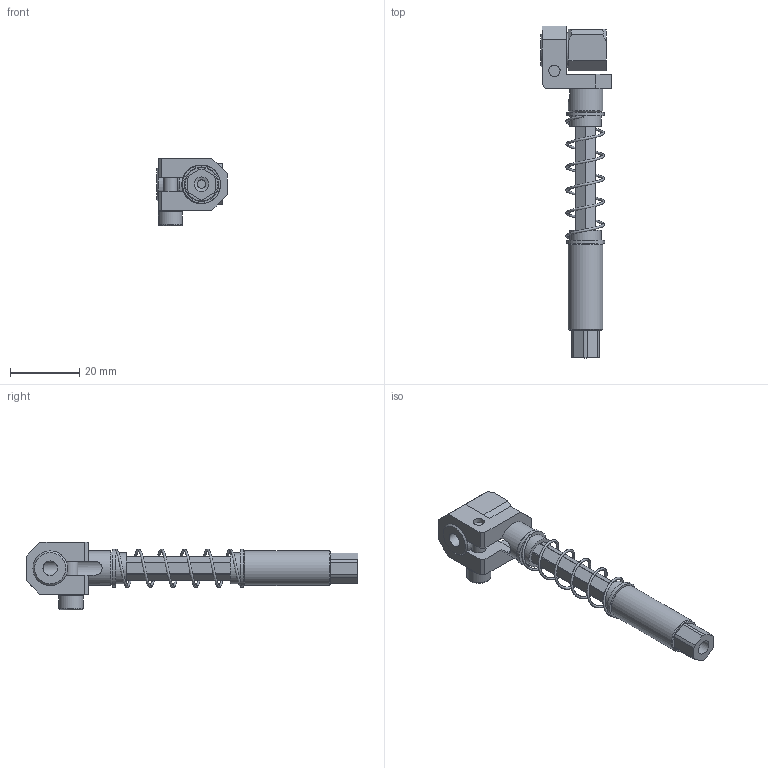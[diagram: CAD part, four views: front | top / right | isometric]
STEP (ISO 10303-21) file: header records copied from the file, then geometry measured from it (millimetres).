
FILE_DESCRIPTION(('STEP AP214'),'1');
FILE_NAME('CA.SAS.10050530.stp','2024-05-07T13:54:44',(' '),(' '),'Spatial InterOp 3D',' ',' ');
FILE_SCHEMA(('AUTOMOTIVE_DESIGN { 1 0 10303 214 1 1 1 1 }'));
Length unit declared in the file: millimetre
Products named in the file (10): CA.SAS.10050530; V.TCE4x14; R.4.SCH; GGB.10.5.5; SAE.10050510.4; M.10.5x48B; SAE.10050510.3; SAE.10050510.1; SAE.10050530.1; SSN.10100505.1
Assembly tree (10 placements, depth 2):
  CA.SAS.10050530
    V.TCE4x14
    R.4.SCH
    GGB.10.5.5
    SAE.10050510.4  x2
    M.10.5x48B
    SAE.10050510.3
    SAE.10050510.1
    SAE.10050530.1
    SSN.10100505.1
Bounding box: 20.5 x 96 x 19.5 mm (x, y, z)
Volume: 6848.1 mm3; surface area: 8784.3 mm2
Topology: 10 solids, 10 shells, 357 faces, 988 edges, 652 vertices
Faces by surface type: plane 272, cylinder 53, cone 26, torus 5, bspline 1
Full cylindrical faces by diameter (mm): 2.5 x1, 3.3 x1, 4 x1, 4.2 x10, 4.3 x1, 5 x3, 5.2 x2, 5.8 x1, 6 x1, 7 x4, 9 x2, 10 x4, 11 x2
Entity records: 15718 total; most frequent: CARTESIAN_POINT 3333, DIRECTION 1862, ORIENTED_EDGE 1822, EDGE_CURVE 911, AXIS2_PLACEMENT_3D 662, VERTEX_POINT 629, LINE 538, VECTOR 538
